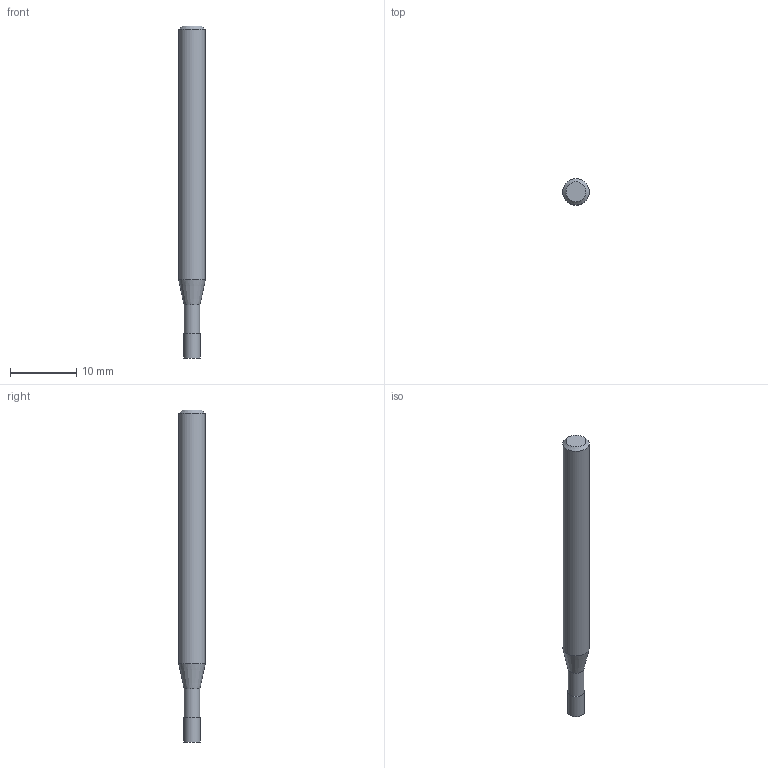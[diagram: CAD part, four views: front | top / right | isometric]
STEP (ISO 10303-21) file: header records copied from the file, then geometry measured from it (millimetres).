
FILE_DESCRIPTION((''),'2;1');
FILE_NAME('C:\Users\nsx150\AppData\Local\Temp\Mastercam 2021\17T8Q8S9EB\TEMP.step','2021-04-21T14:27:59',(''),(''),'STEP Write','Mastercam 2021 ... CNC Software, Inc.','');
FILE_SCHEMA(('AUTOMOTIVE_DESIGN'));
Length unit declared in the file: millimetre
Products named in the file (1): None
Bounding box: 4 x 4 x 50 mm (x, y, z)
Volume: 547.6 mm3; surface area: 603.6 mm2
Topology: 2 solids, 2 shells, 9 faces, 12 edges, 7 vertices
Faces by surface type: plane 4, cylinder 3, cone 2
Full cylindrical faces by diameter (mm): 2.4 x1, 2.5 x1, 4 x1
Entity records: 211 total; most frequent: DIRECTION 36, CARTESIAN_POINT 25, AXIS2_PLACEMENT_3D 18, ORIENTED_EDGE 14, EDGE_LOOP 14, STYLED_ITEM 12, ADVANCED_FACE 9, FACE_BOUND 8
